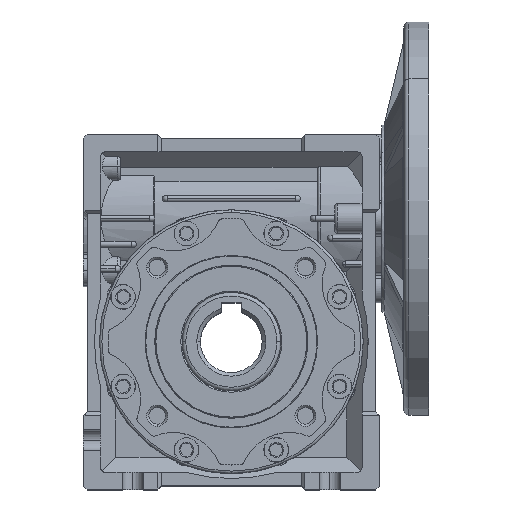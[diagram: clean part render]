
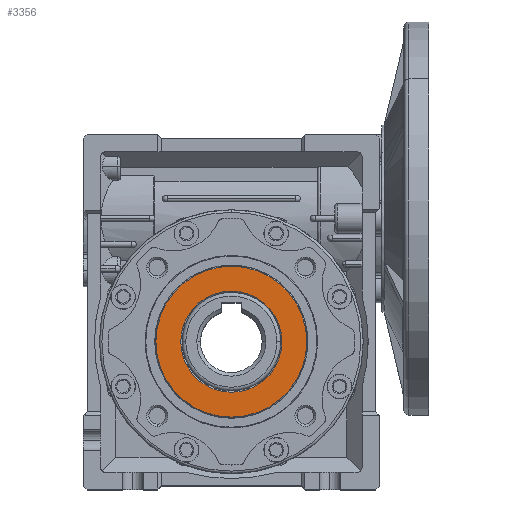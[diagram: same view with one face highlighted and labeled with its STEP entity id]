
A CAD part, top view. The second image highlights one B-rep face of the part: STEP entity #3356.
In plain terms, the highlighted planar face has unit normal (0, 0, 1).
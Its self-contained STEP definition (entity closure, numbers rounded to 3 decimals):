
#3356=ADVANCED_FACE('',(#7075,#7076),#7077,.T.);
#7075=FACE_BOUND('',#12204,.T.);
#7076=FACE_OUTER_BOUND('',#12205,.T.);
#7077=PLANE('',#12206);
#12204=EDGE_LOOP('',(#23791,#23792));
#12205=EDGE_LOOP('',(#23793,#23794));
#12206=AXIS2_PLACEMENT_3D('',#23795,#23796,#23797);
#23791=ORIENTED_EDGE('',*,*,#28952,.T.);
#23792=ORIENTED_EDGE('',*,*,#28863,.T.);
#23793=ORIENTED_EDGE('',*,*,#29174,.T.);
#23794=ORIENTED_EDGE('',*,*,#28489,.T.);
#23795=CARTESIAN_POINT('',(-107.697,27.073,11.304));
#23796=DIRECTION('',(0.,0.0,1.0));
#23797=DIRECTION('',(1.0,0.0,0.));
#28489=EDGE_CURVE('',#34012,#34009,#34013,.T.);
#28863=EDGE_CURVE('',#34641,#34638,#34642,.T.);
#28952=EDGE_CURVE('',#34638,#34641,#34778,.T.);
#29174=EDGE_CURVE('',#34009,#34012,#35070,.T.);
#34009=VERTEX_POINT('',#42618);
#34012=VERTEX_POINT('',#42622);
#34013=CIRCLE('',#42623,30.6);
#34638=VERTEX_POINT('',#43700);
#34641=VERTEX_POINT('',#43704);
#34642=CIRCLE('',#43705,20.5);
#34778=CIRCLE('',#43874,20.5);
#35070=CIRCLE('',#44335,30.6);
#42618=CARTESIAN_POINT('',(-138.297,5.85,11.304));
#42622=CARTESIAN_POINT('',(-77.097,5.85,11.304));
#42623=AXIS2_PLACEMENT_3D('',#52776,#52777,#52778);
#43700=CARTESIAN_POINT('',(-87.197,5.85,11.304));
#43704=CARTESIAN_POINT('',(-128.197,5.85,11.304));
#43705=AXIS2_PLACEMENT_3D('',#53333,#53334,#53335);
#43874=AXIS2_PLACEMENT_3D('',#53471,#53472,#53473);
#44335=AXIS2_PLACEMENT_3D('',#53838,#53839,#53840);
#52776=CARTESIAN_POINT('',(-107.697,5.85,11.304));
#52777=DIRECTION('',(0.,0.0,1.0));
#52778=DIRECTION('',(1.0,0.0,0.));
#53333=CARTESIAN_POINT('',(-107.697,5.85,11.304));
#53334=DIRECTION('',(0.,0.0,-1.0));
#53335=DIRECTION('',(1.0,0.0,0.));
#53471=CARTESIAN_POINT('',(-107.697,5.85,11.304));
#53472=DIRECTION('',(0.,0.0,-1.0));
#53473=DIRECTION('',(1.0,0.0,0.));
#53838=CARTESIAN_POINT('',(-107.697,5.85,11.304));
#53839=DIRECTION('',(0.,0.0,1.0));
#53840=DIRECTION('',(1.0,0.0,0.));
